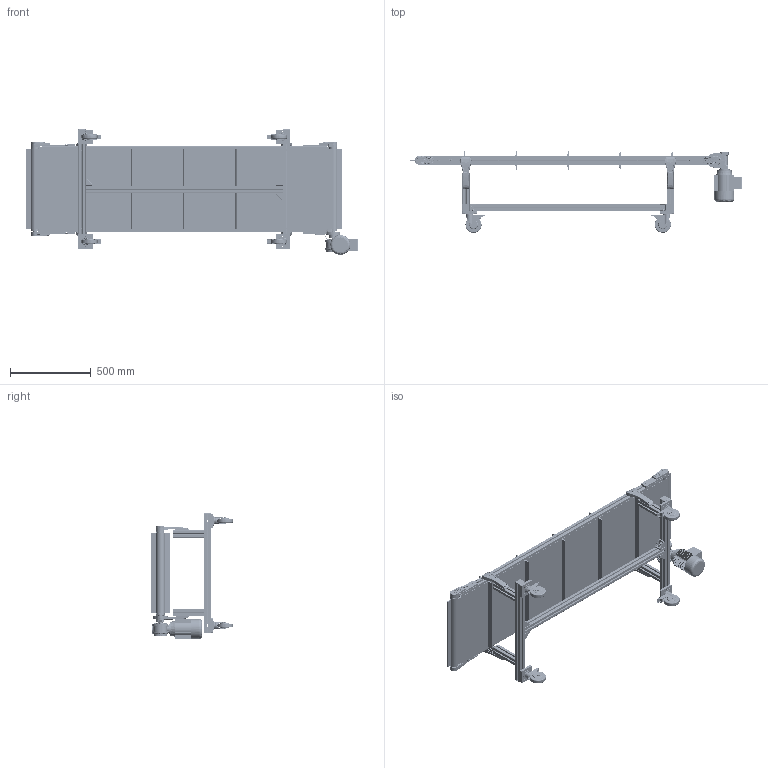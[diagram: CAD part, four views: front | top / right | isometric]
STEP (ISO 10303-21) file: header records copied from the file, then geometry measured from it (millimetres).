
FILE_DESCRIPTION (( 'STEP AP214' ), '1' );
FILE_NAME ('NASTRO_RETTILINEO_TAPPETO.step', '2026-04-20T08:43:04', ( 'Utente Windows' ), ( '' ), 'SwSTEP 2.0', 'SolidWorks 2024', '' );
FILE_SCHEMA (( 'AUTOMOTIVE_DESIGN' ));
Length unit declared in the file: millimetre
Products named in the file (62): VITI TSEI UNI 5933 INOX_0412UNI5933A2; 2010.000.069; CHIAVETTE_A 6x6x60 UNI 6604-69; 084.802.066_Default<A macchina>; BLOCCO_TRAINO_50_STANDARD_44_SX; 084.305.003-1; VITI TE UNI 5739_M6x16 UNI 5739; 084.811.002; 2010.000.068_L; VITI TCEI UNI 5931_M6x12 UNI 5931; 084.302.000 DADI ALUSIC 13x13-1_084.302.007; TAPPETO_STANDARD; 084.302.000 DADI ALUSIC 13x13-1_084.302.004; 084.201.012-1; GAMBE_D50_Default<A macchina>; ANGOLARE_43; 084.807.002_084.807.002; VITI TSEI UNI 5933_M4x12 UNI 5933; VITE_RONDELLA_M8X20; VITE_DADO_M5X12; 084.405.002-1-L; 084.302.000 DADI ALUSIC 13x13_084.302.004; 084.802.071; CHIAVETTE_A 5x5x20 UNI 6604-69; NASTRO_RETTILINEO_TAPPETO; BLOCCO_TRAINO_50_STANDARD; FLANGIA_GAMBA_50; 084.802.017_084.802.017; 2010.000.070; RUOTA; LAMIERA_STANDARD; 084.802.060_Default<A macchina>; 084.802.008; 2010.000.068; CH04P_SX; 084.803.018; BLOCCO_PERNO_50_44; 084.802.062; 084.301.000 VITI ALUSIC1_084.301.003; RULLO_50_Default<A macchina>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
Assembly tree (156 placements, depth 4):
  NASTRO_RETTILINEO_TAPPETO
    TAPPETO_STANDARD
    TELAIO_50_STANDARD_Default<A macchina>
    LAMIERA_STANDARD
    RULLO_50_Default<A macchina>  x2
    BLOCCO_PERNO_50_RINVIO  x3
      084.811.004
      084.810.001
    BLOCCO_TRAINO_50_STANDARD
      084.807.002_084.807.002
      084.802.017_084.802.017
      084.301.000 VITI ALUSIC_084.301.003  x2
      084.302.000 DADI ALUSIC 13x13-1_084.302.004  x2
      VITI TSEI UNI 5933_M4x12 UNI 5933  x4
      084.802.071
      VITI TSEI UNI 5933 INOX_0412UNI5933A2  x2
    BLOCCO_PERNO_50_44
      084.810.001
      084.811.002
      RONDELLE FASCIA LARGA UNI 6593_6.4x24 UNI 6593
      VITI TE UNI 5739_M6x12 UNI 5739
      CHIAVETTE_A 5x5x20 UNI 6604-69
      CHIAVETTE_A 6x6x60 UNI 6604-69
    BLOCCO_TRAINO_50_STANDARD_44_SX
      084.301.000 VITI ALUSIC_084.301.003  x2
      084.302.000 DADI ALUSIC 13x13-1_084.302.004  x2
      084.807.001_084.807.001
      084.802.034_084.802.034
      BLOCCO_BRACCIO_CH04P_V2_VF44P V2
        084.808.012
        084.802.062
        084.803.018
        VITI TCEI UNI 5931_M6x12 UNI 5931  x4
        VITI TE UNI 5739_M6x16 UNI 5739  x4
        084.802.060_Default<A macchina>
      084.802.066_Default<A macchina>
      VITI TCEI UNI 5931_M4x25 UNI 5931  x2
    BLOCCO_RINVIO_50_STANDARD  x2
      084.807.002_084.807.002
      084.802.017_084.802.017
      084.802.008
      084.301.000 VITI ALUSIC_084.301.003
      084.302.000 DADI ALUSIC 13x13_084.302.004
      VITI TSEI UNI 5933_M4x10 UNI 5933
      084.802.071
    GAMBE_D50_Default<A macchina>  x2
    FLANGIA_GAMBA_50
      084.302.000 DADI ALUSIC 13x13-1_084.302.004  x4
      RONDELLE UNI 6592_8.4x17 UNI 6592  x3
      084.301.000 VITI ALUSIC_084.301.003  x4
      2010.000.068
        2010.000.068_L
        2010.000.069
        2010.000.070
    FLANGIA_GAMBA_50  x3
      084.302.000 DADI ALUSIC 13x13-1_084.302.004
      RONDELLE UNI 6592_8.4x17 UNI 6592
      084.301.000 VITI ALUSIC_084.301.003
      2010.000.068
        2010.000.068_L
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Bounding box: 2061.6 x 506.1 x 780 mm (x, y, z)
Volume: 17855562.2 mm3; surface area: 13394803.4 mm2
Topology: 319 solids, 328 shells, 15016 faces, 39198 edges, 25111 vertices
Faces by surface type: plane 6559, cylinder 4437, bspline 1643, cone 1368, torus 897, sphere 112
Entity records: 225156 total; most frequent: CARTESIAN_POINT 73497, ORIENTED_EDGE 32648, DIRECTION 29578, EDGE_CURVE 16324, VERTEX_POINT 10541, AXIS2_PLACEMENT_3D 10302, VECTOR 8974, LINE 8974
